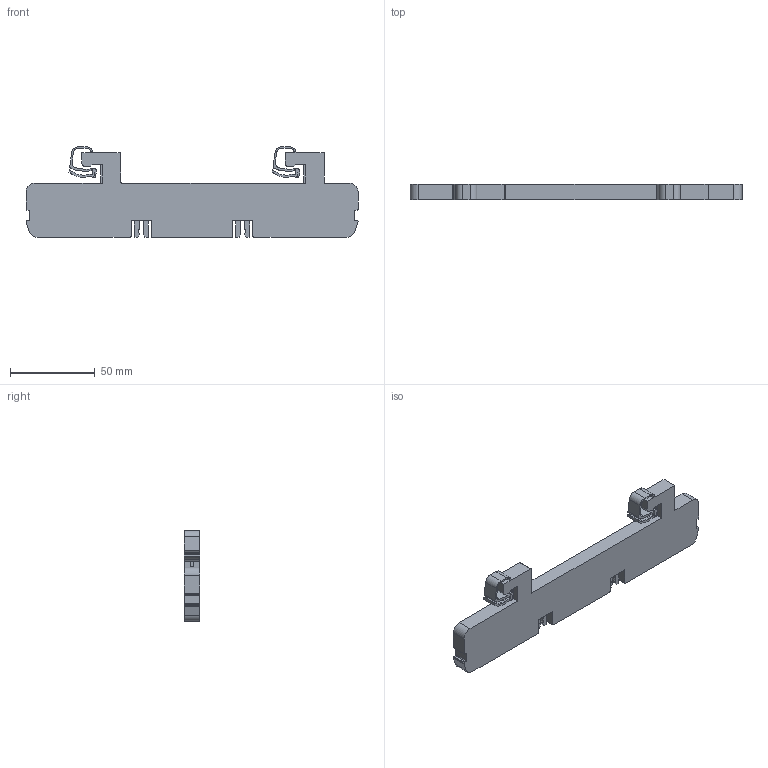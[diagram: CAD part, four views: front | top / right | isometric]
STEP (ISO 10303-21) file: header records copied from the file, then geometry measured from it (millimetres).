
FILE_DESCRIPTION (( 'STEP AP203' ), '1' );
FILE_NAME ('DN53016.STEP', '2025-10-31T07:09:44', ( '' ), ( '' ), 'SwSTEP 2.0', 'SolidWorks 2019', '' );
FILE_SCHEMA (( 'CONFIG_CONTROL_DESIGN' ));
Length unit declared in the file: millimetre
Products named in the file (1): DN53016
Bounding box: 196 x 9 x 53.5 mm (x, y, z)
Volume: 60487.6 mm3; surface area: 21385 mm2
Topology: 1 solids, 1 shells, 210 faces, 612 edges, 408 vertices
Faces by surface type: plane 130, cylinder 76, bspline 4
Entity records: 7049 total; most frequent: CARTESIAN_POINT 1283, ORIENTED_EDGE 1224, DIRECTION 1170, EDGE_CURVE 612, LINE 452, VECTOR 452, VERTEX_POINT 408, AXIS2_PLACEMENT_3D 359
